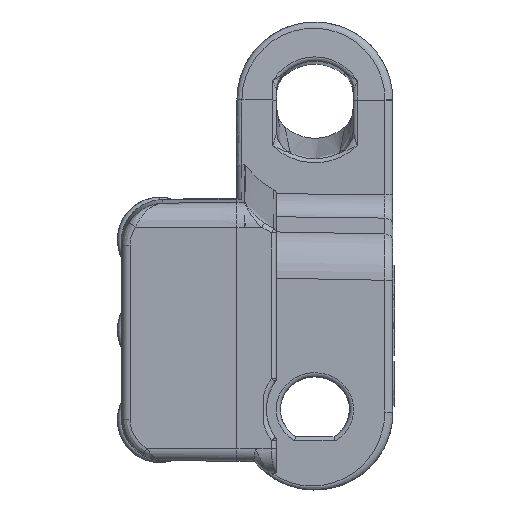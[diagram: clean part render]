
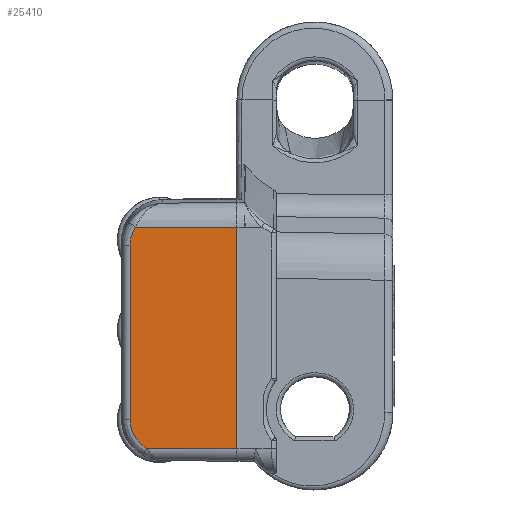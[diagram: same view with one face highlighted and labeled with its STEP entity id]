
A CAD part, left-side view. The second image highlights one B-rep face of the part: STEP entity #25410.
In plain terms, the highlighted planar face has unit normal (-1, 0.009, 0).
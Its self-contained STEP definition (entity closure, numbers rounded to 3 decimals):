
#923 = LINE ( 'NONE', #6458, #17701 ) ;
#1247 = CARTESIAN_POINT ( 'NONE',  ( -95.25, 9.5, -42.5 ) ) ;
#3063 = VECTOR ( 'NONE', #7713, 1000. ) ;
#4857 = CARTESIAN_POINT ( 'NONE',  ( -95.154, 20.476, -42.404 ) ) ;
#5768 = DIRECTION ( 'NONE',  ( -0.009, -1., 0. ) ) ;
#6006 = CARTESIAN_POINT ( 'NONE',  ( -95.25, 9.5, -15.478 ) ) ;
#6458 = CARTESIAN_POINT ( 'NONE',  ( -95.136, 22.509, -38.921 ) ) ;
#6590 = LINE ( 'NONE', #17225, #26562 ) ;
#6961 = LINE ( 'NONE', #1247, #32137 ) ;
#7011 = CARTESIAN_POINT ( 'NONE',  ( -95.136, 22.509, -38.921 ) ) ;
#7713 = DIRECTION ( 'NONE',  ( -0.009, -1., 0. ) ) ;
#8816 = ORIENTED_EDGE ( 'NONE', *, *, #29672, .T. ) ;
#8993 = VERTEX_POINT ( 'NONE', #6006 ) ;
#10390 = ORIENTED_EDGE ( 'NONE', *, *, #15615, .T. ) ;
#10494 = CARTESIAN_POINT ( 'NONE',  ( -95.25, 9.5, -15.478 ) ) ;
#10559 =( BOUNDED_CURVE ( )  B_SPLINE_CURVE ( 3, ( #23459, #21385, #18104, #34070 ),
 .UNSPECIFIED., .F., .F. ) 
 B_SPLINE_CURVE_WITH_KNOTS ( ( 4, 4 ),
 ( 0.848, 1.429 ),
 .UNSPECIFIED. ) 
 CURVE ( )  GEOMETRIC_REPRESENTATION_ITEM ( )  RATIONAL_B_SPLINE_CURVE ( ( 1., 0.972, 0.972, 1. ) ) 
 REPRESENTATION_ITEM ( '' )  );
#11508 = DIRECTION ( 'NONE',  ( 0., 0., -1. ) ) ;
#11886 = CARTESIAN_POINT ( 'NONE',  ( -95.143, 21.763, -41.677 ) ) ;
#12669 = EDGE_CURVE ( 'NONE', #20282, #26883, #31363, .T. ) ;
#12766 = VERTEX_POINT ( 'NONE', #13255 ) ;
#13255 = CARTESIAN_POINT ( 'NONE',  ( -95.142, 21.853, -15.478 ) ) ;
#13846 = EDGE_CURVE ( 'NONE', #16857, #25867, #29584, .T. ) ;
#14103 = ORIENTED_EDGE ( 'NONE', *, *, #13846, .T. ) ;
#15047 = EDGE_CURVE ( 'NONE', #25205, #20282, #923, .T. ) ;
#15280 = ORIENTED_EDGE ( 'NONE', *, *, #19018, .F. ) ;
#15615 = EDGE_CURVE ( 'NONE', #25867, #8993, #6590, .T. ) ;
#16153 = FACE_OUTER_BOUND ( 'NONE', #22441, .T. ) ;
#16655 = VECTOR ( 'NONE', #5768, 1000. ) ;
#16857 = VERTEX_POINT ( 'NONE', #19141 ) ;
#17225 = CARTESIAN_POINT ( 'NONE',  ( -95.25, 9.5, -42.5 ) ) ;
#17701 = VECTOR ( 'NONE', #11508, 1000. ) ;
#18104 = CARTESIAN_POINT ( 'NONE',  ( -95.136, 22.509, -16.889 ) ) ;
#18597 = CARTESIAN_POINT ( 'NONE',  ( -95.25, 9.5, -42.5 ) ) ;
#19018 = EDGE_CURVE ( 'NONE', #12766, #8993, #26997, .T. ) ;
#19141 = CARTESIAN_POINT ( 'NONE',  ( -95.25, 9.507, -42.5 ) ) ;
#20070 = CARTESIAN_POINT ( 'NONE',  ( -95.154, 20.476, -42.404 ) ) ;
#20282 = VERTEX_POINT ( 'NONE', #32111 ) ;
#21208 = PLANE ( 'NONE',  #24350 ) ;
#21385 = CARTESIAN_POINT ( 'NONE',  ( -95.138, 22.284, -16.135 ) ) ;
#21701 = DIRECTION ( 'NONE',  ( -1., 0.009, 0. ) ) ;
#22421 = DIRECTION ( 'NONE',  ( -0.009, -1., -0.009 ) ) ;
#22441 = EDGE_LOOP ( 'NONE', ( #15280, #8816, #23162, #22589, #27108, #14103, #10390 ) ) ;
#22589 = ORIENTED_EDGE ( 'NONE', *, *, #12669, .T. ) ;
#23103 = CARTESIAN_POINT ( 'NONE',  ( -95.136, 22.509, -17.676 ) ) ;
#23162 = ORIENTED_EDGE ( 'NONE', *, *, #15047, .T. ) ;
#23459 = CARTESIAN_POINT ( 'NONE',  ( -95.142, 21.853, -15.478 ) ) ;
#24350 = AXIS2_PLACEMENT_3D ( 'NONE', #18597, #21701, #26746 ) ;
#25127 = EDGE_CURVE ( 'NONE', #26883, #16857, #6961, .T. ) ;
#25205 = VERTEX_POINT ( 'NONE', #23103 ) ;
#25410 = ADVANCED_FACE ( 'NONE', ( #16153 ), #21208, .T. ) ;
#25867 = VERTEX_POINT ( 'NONE', #29431 ) ;
#26562 = VECTOR ( 'NONE', #31431, 1000. ) ;
#26746 = DIRECTION ( 'NONE',  ( -0.009, -1., 0. ) ) ;
#26883 = VERTEX_POINT ( 'NONE', #4857 ) ;
#26997 = LINE ( 'NONE', #10494, #3063 ) ;
#27108 = ORIENTED_EDGE ( 'NONE', *, *, #25127, .T. ) ;
#27684 = CARTESIAN_POINT ( 'NONE',  ( -95.136, 22.509, -40.4 ) ) ;
#29431 = CARTESIAN_POINT ( 'NONE',  ( -95.25, 9.5, -42.5 ) ) ;
#29584 = LINE ( 'NONE', #30267, #16655 ) ;
#29672 = EDGE_CURVE ( 'NONE', #12766, #25205, #10559, .T. ) ;
#30267 = CARTESIAN_POINT ( 'NONE',  ( -95.25, 9.5, -42.5 ) ) ;
#31363 =( BOUNDED_CURVE ( )  B_SPLINE_CURVE ( 3, ( #7011, #27684, #11886, #20070 ),
 .UNSPECIFIED., .F., .F. ) 
 B_SPLINE_CURVE_WITH_KNOTS ( ( 4, 4 ),
 ( 3.142, 4.198 ),
 .UNSPECIFIED. ) 
 CURVE ( )  GEOMETRIC_REPRESENTATION_ITEM ( )  RATIONAL_B_SPLINE_CURVE ( ( 1., 0.909, 0.909, 1. ) ) 
 REPRESENTATION_ITEM ( '' )  );
#31431 = DIRECTION ( 'NONE',  ( 0., 0., 1. ) ) ;
#32111 = CARTESIAN_POINT ( 'NONE',  ( -95.136, 22.509, -38.921 ) ) ;
#32137 = VECTOR ( 'NONE', #22421, 1000. ) ;
#34070 = CARTESIAN_POINT ( 'NONE',  ( -95.136, 22.509, -17.676 ) ) ;
